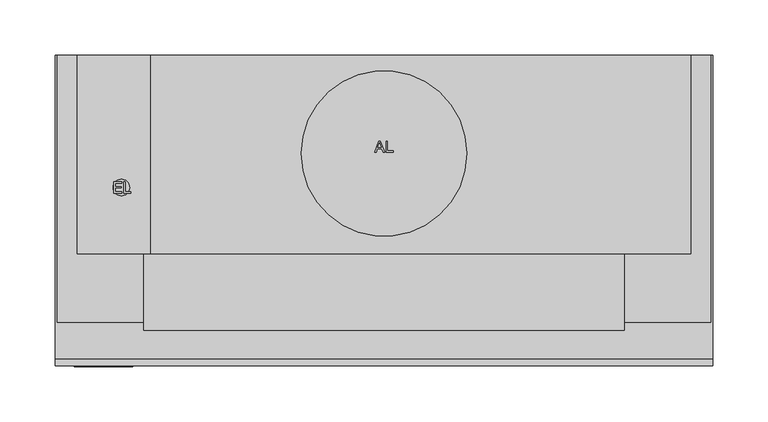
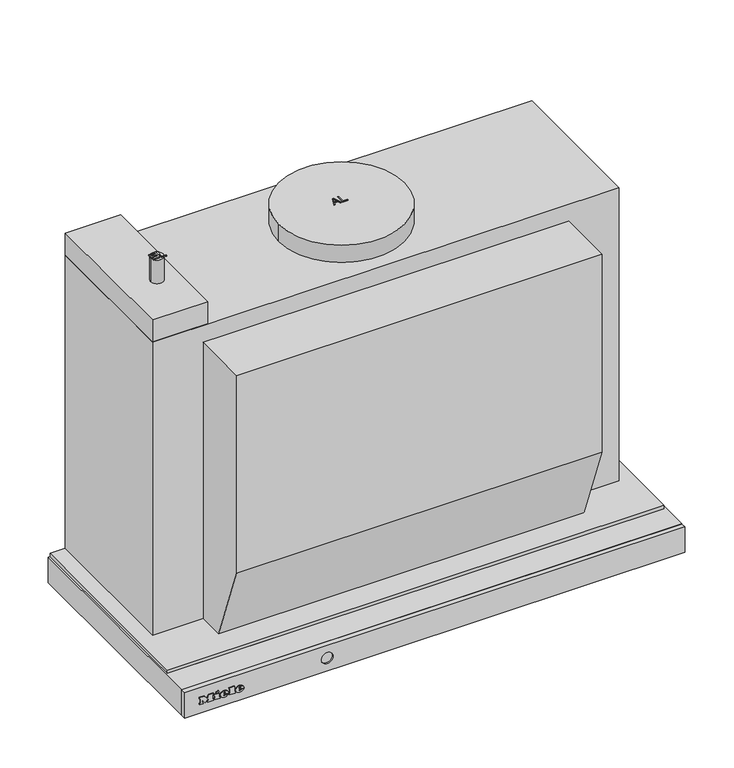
"""IFC4 building model written with IfcOpenShell, lengths in millimetres: proxy geometry, 11878430_PAC_DAS4630_OBSW : 28S4630B_PAC_11878430_DAS4630_OBSW."""

from ifc_helpers import new_model, si_unit, point, frame, frame_2d, origin, origin_with_axes, place, context, project, spatial, polyline, circle_curve, ellipse_curve, trimmed, segment, composite_curve, outline, extrude, faceted_brep, source, transform, mapped, element, save
from ifc_brep_helpers import plane_surface, cylinder_surface, revolved_surface, extruded_surface, advanced_brep


def specialty_equipment_1e5db910(model_context):
    return source(origin(), model_context, "Body", "SolidModel", [
        advanced_brep(
        [(-233.4590019, -282.1878927, -18.7681017), (-233.4590019, -282.1878927, -17.8894017), (-227.6387019, -282.1878927, -17.8894017), (-237.7655019, -282.1878927, -17.8894017), (-235.3730019, -282.1878927, -20.8300017), (-227.7866019, -282.1878927, -18.7681017), (-230.4140019, -282.1878927, -18.7681017), (-232.4846019, -282.1878927, -19.7425017), (-233.4590019, -282.1878927, -16.7758017), (-233.4590019, -282.1878927, -15.8275017), (-231.9713019, -282.1878927, -15.8275017), (-231.9713019, -282.1878927, -16.7758017), (-233.4590019, -281.1878927, -18.7681017), (-232.4846019, -281.1878927, -19.7425017), (-230.4140019, -281.1878927, -18.7681017), (-227.7866019, -281.1878927, -18.7681017), (-235.3730019, -281.1878927, -20.8300017), (-237.7655019, -281.1878927, -17.8894017), (-227.6387019, -281.1878927, -17.8894017), (-233.4590019, -281.1878927, -17.8894017), (-233.4590019, -281.1878927, -16.7758017), (-231.9713019, -281.1878927, -16.7758017), (-231.9713019, -281.1878927, -15.8275017), (-233.4590019, -281.1878927, -15.8275017)],
        [
            (0, 1),
            (1, 2),
            (2, 3, ellipse_curve(frame((-232.7021019, -282.1878927, -17.8894017), z_axis=(0.0, -1.0, 0.0), x_axis=(-1.0, 0.0, 0.0)), 5.0634, 4.1847)),
            (3, 4, circle_curve(frame((-234.3985544, -282.1878927, -17.5936017), z_axis=(0.0, -1.0, 0.0), x_axis=(0.0, 0.0, -1.0)), 3.3799161)),
            (4, 5, circle_curve(frame((-232.8034638, -282.1878927, -15.2968017), z_axis=(0.0, -1.0, 0.0), x_axis=(0.0, 0.0, -1.0)), 6.1007236)),
            (5, 6),
            (6, 7, circle_curve(frame((-232.0593254, -282.1878927, -17.9590017), z_axis=(0.0, 1.0, 0.0), x_axis=(0.0, 0.0, -1.0)), 1.8335027)),
            (7, 0, circle_curve(frame((-232.4846019, -282.1878927, -18.7681017), z_axis=(0.0, 1.0, 0.0), x_axis=(0.0, 0.0, -1.0)), 0.9744)),
            (8, 9),
            (9, 10, circle_curve(frame((-232.7151519, -282.1878927, -15.8275017), z_axis=(0.0, 1.0, 0.0), x_axis=(0.0, 0.0, -1.0)), 0.74385)),
            (10, 11),
            (11, 8),
            (12, 13, circle_curve(frame((-232.4846019, -281.1878927, -18.7681017), z_axis=(0.0, -1.0, 0.0), x_axis=(0.0, 0.0, -1.0)), 0.9744)),
            (13, 14, circle_curve(frame((-232.0593254, -281.1878927, -17.9590017), z_axis=(0.0, -1.0, 0.0), x_axis=(0.0, 0.0, -1.0)), 1.8335027)),
            (14, 15),
            (15, 16, circle_curve(frame((-232.8034638, -281.1878927, -15.2968017), z_axis=(0.0, 1.0, 0.0), x_axis=(0.0, 0.0, -1.0)), 6.1007236)),
            (16, 17, circle_curve(frame((-234.3985544, -281.1878927, -17.5936017), z_axis=(0.0, 1.0, 0.0), x_axis=(0.0, 0.0, -1.0)), 3.3799161)),
            (17, 18, ellipse_curve(frame((-232.7021019, -281.1878927, -17.8894017), z_axis=(0.0, 1.0, 0.0), x_axis=(-1.0, 0.0, 0.0)), 5.0634, 4.1847)),
            (18, 19),
            (19, 12),
            (20, 21),
            (21, 22),
            (22, 23, circle_curve(frame((-232.7151519, -281.1878927, -15.8275017), z_axis=(0.0, -1.0, 0.0), x_axis=(0.0, 0.0, -1.0)), 0.74385)),
            (23, 20),
            (0, 12),
            (19, 1),
            (18, 2),
            (5, 15),
            (14, 6),
            (17, 3),
            (13, 7),
            (16, 4),
            (8, 20),
            (23, 9),
            (22, 10),
            (21, 11),
        ],
        [
            plane_surface(frame((-233.4590019, -282.1878927, -17.8894017), z_axis=(0.0, -1.0, 0.0), x_axis=(0.0, 0.0, 1.0))),
            plane_surface(frame((-233.4590019, -281.1878927, -17.8894017), z_axis=(0.0, 1.0, 0.0), x_axis=(0.0, 0.0, -1.0))),
            plane_surface(frame((-233.4590019, -282.1878927, -18.7681017), z_axis=(1.0, 0.0, 0.0), x_axis=(0.0, 1.0, 0.0))),
            plane_surface(frame((-233.4590019, -282.1878927, -17.8894017), z_axis=(0.0, 0.0, -1.0), x_axis=(0.0, 1.0, 0.0))),
            plane_surface(frame((-227.7866019, -282.1878927, -18.7681017), z_axis=(0.0, 0.0, 1.0), x_axis=(0.0, 1.0, 0.0))),
            extruded_surface(trimmed(ellipse_curve(frame((-232.7021019, -280.1878927, -17.8894017), z_axis=(0.0, -1.0, 0.0), x_axis=(-1.0, 0.0, 0.0)), 5.0634, 4.1847), [point((-227.6387019, -280.1878927, -17.8894017))], [point((-237.7655019, -280.1878927, -17.8894017))], True, "CARTESIAN"), (0.0, -1.0, 0.0), 1.0),
            revolved_surface(polyline([(-232.0593254, -281.1878927, -19.792504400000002), (-232.0593254, -282.1878927, -19.792504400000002)]), (-232.0593254, -281.1878927, -17.9590017), (0.0, 1.0, 0.0)),
            revolved_surface(polyline([(-232.4846019, -281.1878927, -19.7425017), (-232.4846019, -282.1878927, -19.7425017)]), (-232.4846019, -281.1878927, -18.7681017), (0.0, 1.0, 0.0)),
            cylinder_surface(frame((-234.3985544, -281.1878927, -17.5936017), z_axis=(0.0, -1.0, 0.0), x_axis=(0.0, 0.0, -1.0)), 3.3799161),
            cylinder_surface(frame((-232.8034638, -281.1878927, -15.2968017), z_axis=(0.0, -1.0, 0.0), x_axis=(0.0, 0.0, -1.0)), 6.1007236),
            plane_surface(frame((-233.4590019, -282.1878927, -16.7758017), z_axis=(1.0, 0.0, 0.0), x_axis=(0.0, 1.0, 0.0))),
            revolved_surface(polyline([(-232.7151519, -281.1878927, -16.571351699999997), (-232.7151519, -282.1878927, -16.571351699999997)]), (-232.7151519, -281.1878927, -15.8275017), (0.0, 1.0, 0.0)),
            plane_surface(frame((-231.9713019, -282.1878927, -15.8275017), z_axis=(-1.0, 0.0, 0.0), x_axis=(0.0, 1.0, 0.0))),
            plane_surface(frame((-231.9713019, -282.1878927, -16.7758017), z_axis=(0.0, 0.0, 1.0), x_axis=(0.0, 1.0, 0.0))),
        ],
        [
            (0, [[1, 2, 3, 4, 5, 6, 7, 8], [9, 10, 11, 12]]),
            (1, [[13, 14, 15, 16, 17, 18, 19, 20], [21, 22, 23, 24]]),
            (2, [[-1, 25, -20, 26]]),
            (3, [[-2, -26, -19, 27]]),
            (4, [[-6, 28, -15, 29]]),
            (5, [[-3, -27, -18, 30]]),
            (6, [[-7, -29, -14, 31]]),
            (7, [[-8, -31, -13, -25]]),
            (8, [[-4, -30, -17, 32]]),
            (9, [[-5, -32, -16, -28]]),
            (10, [[-9, 33, -24, 34]]),
            (11, [[-10, -34, -23, 35]]),
            (12, [[-11, -35, -22, 36]]),
            (13, [[-12, -36, -21, -33]]),
        ],
    ),
        advanced_brep(
        [(-251.6159019, -282.1878927, -18.7681017), (-251.6159019, -282.1878927, -17.8894017), (-245.7956019, -282.1878927, -17.8894017), (-255.9224019, -282.1878927, -17.8894017), (-253.5299019, -282.1878927, -20.8300017), (-245.9435019, -282.1878927, -18.7681017), (-248.5709019, -282.1878927, -18.7681017), (-250.6415019, -282.1878927, -19.7425017), (-251.6159019, -282.1878927, -16.7758017), (-251.6159019, -282.1878927, -15.8275017), (-250.1282019, -282.1878927, -15.8275017), (-250.1282019, -282.1878927, -16.7758017), (-251.6159019, -281.1878927, -18.7681017), (-250.6415019, -281.1878927, -19.7425017), (-248.5709019, -281.1878927, -18.7681017), (-245.9435019, -281.1878927, -18.7681017), (-253.5299019, -281.1878927, -20.8300017), (-255.9224019, -281.1878927, -17.8894017), (-245.7956019, -281.1878927, -17.8894017), (-251.6159019, -281.1878927, -17.8894017), (-251.6159019, -281.1878927, -16.7758017), (-250.1282019, -281.1878927, -16.7758017), (-250.1282019, -281.1878927, -15.8275017), (-251.6159019, -281.1878927, -15.8275017)],
        [
            (0, 1),
            (1, 2),
            (2, 3, ellipse_curve(frame((-250.8590019, -282.1878927, -17.8894017), z_axis=(0.0, -1.0, 0.0), x_axis=(-1.0, 0.0, 0.0)), 5.0634, 4.1847)),
            (3, 4, circle_curve(frame((-252.5554544, -282.1878927, -17.5936017), z_axis=(0.0, -1.0, 0.0), x_axis=(0.0, 0.0, -1.0)), 3.3799161)),
            (4, 5, circle_curve(frame((-250.9603638, -282.1878927, -15.2968017), z_axis=(0.0, -1.0, 0.0), x_axis=(0.0, 0.0, -1.0)), 6.1007236)),
            (5, 6),
            (6, 7, circle_curve(frame((-250.2162254, -282.1878927, -17.9590017), z_axis=(0.0, 1.0, 0.0), x_axis=(0.0, 0.0, -1.0)), 1.8335027)),
            (7, 0, circle_curve(frame((-250.6415019, -282.1878927, -18.7681017), z_axis=(0.0, 1.0, 0.0), x_axis=(0.0, 0.0, -1.0)), 0.9744)),
            (8, 9),
            (9, 10, circle_curve(frame((-250.8720519, -282.1878927, -15.8275017), z_axis=(0.0, 1.0, 0.0), x_axis=(0.0, 0.0, -1.0)), 0.74385)),
            (10, 11),
            (11, 8),
            (12, 13, circle_curve(frame((-250.6415019, -281.1878927, -18.7681017), z_axis=(0.0, -1.0, 0.0), x_axis=(0.0, 0.0, -1.0)), 0.9744)),
            (13, 14, circle_curve(frame((-250.2162254, -281.1878927, -17.9590017), z_axis=(0.0, -1.0, 0.0), x_axis=(0.0, 0.0, -1.0)), 1.8335027)),
            (14, 15),
            (15, 16, circle_curve(frame((-250.9603638, -281.1878927, -15.2968017), z_axis=(0.0, 1.0, 0.0), x_axis=(0.0, 0.0, -1.0)), 6.1007236)),
            (16, 17, circle_curve(frame((-252.5554544, -281.1878927, -17.5936017), z_axis=(0.0, 1.0, 0.0), x_axis=(0.0, 0.0, -1.0)), 3.3799161)),
            (17, 18, ellipse_curve(frame((-250.8590019, -281.1878927, -17.8894017), z_axis=(0.0, 1.0, 0.0), x_axis=(-1.0, 0.0, 0.0)), 5.0634, 4.1847)),
            (18, 19),
            (19, 12),
            (20, 21),
            (21, 22),
            (22, 23, circle_curve(frame((-250.8720519, -281.1878927, -15.8275017), z_axis=(0.0, -1.0, 0.0), x_axis=(0.0, 0.0, -1.0)), 0.74385)),
            (23, 20),
            (0, 12),
            (19, 1),
            (18, 2),
            (5, 15),
            (14, 6),
            (17, 3),
            (13, 7),
            (16, 4),
            (8, 20),
            (23, 9),
            (22, 10),
            (21, 11),
        ],
        [
            plane_surface(frame((-251.6159019, -282.1878927, -17.8894017), z_axis=(0.0, -1.0, 0.0), x_axis=(0.0, 0.0, 1.0))),
            plane_surface(frame((-251.6159019, -281.1878927, -17.8894017), z_axis=(0.0, 1.0, 0.0), x_axis=(0.0, 0.0, -1.0))),
            plane_surface(frame((-251.6159019, -282.1878927, -18.7681017), z_axis=(1.0, 0.0, 0.0), x_axis=(0.0, 1.0, 0.0))),
            plane_surface(frame((-251.6159019, -282.1878927, -17.8894017), z_axis=(0.0, 0.0, -1.0), x_axis=(0.0, 1.0, 0.0))),
            plane_surface(frame((-245.9435019, -282.1878927, -18.7681017), z_axis=(0.0, 0.0, 1.0), x_axis=(0.0, 1.0, 0.0))),
            extruded_surface(trimmed(ellipse_curve(frame((-250.8590019, -280.1878927, -17.8894017), z_axis=(0.0, -1.0, 0.0), x_axis=(-1.0, 0.0, 0.0)), 5.0634, 4.1847), [point((-245.7956019, -280.1878927, -17.8894017))], [point((-255.9224019, -280.1878927, -17.8894017))], True, "CARTESIAN"), (0.0, -1.0, 0.0), 1.0),
            revolved_surface(polyline([(-250.2162254, -281.1878927, -19.792504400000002), (-250.2162254, -282.1878927, -19.792504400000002)]), (-250.2162254, -281.1878927, -17.9590017), (0.0, 1.0, 0.0)),
            revolved_surface(polyline([(-250.6415019, -281.1878927, -19.7425017), (-250.6415019, -282.1878927, -19.7425017)]), (-250.6415019, -281.1878927, -18.7681017), (0.0, 1.0, 0.0)),
            cylinder_surface(frame((-252.5554544, -281.1878927, -17.5936017), z_axis=(0.0, -1.0, 0.0), x_axis=(0.0, 0.0, -1.0)), 3.3799161),
            cylinder_surface(frame((-250.9603638, -281.1878927, -15.2968017), z_axis=(0.0, -1.0, 0.0), x_axis=(0.0, 0.0, -1.0)), 6.1007236),
            plane_surface(frame((-251.6159019, -282.1878927, -16.7758017), z_axis=(1.0, 0.0, 0.0), x_axis=(0.0, 1.0, 0.0))),
            revolved_surface(polyline([(-250.8720519, -281.1878927, -16.571351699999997), (-250.8720519, -282.1878927, -16.571351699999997)]), (-250.8720519, -281.1878927, -15.8275017), (0.0, 1.0, 0.0)),
            plane_surface(frame((-250.1282019, -282.1878927, -15.8275017), z_axis=(-1.0, 0.0, 0.0), x_axis=(0.0, 1.0, 0.0))),
            plane_surface(frame((-250.1282019, -282.1878927, -16.7758017), z_axis=(0.0, 0.0, 1.0), x_axis=(0.0, 1.0, 0.0))),
        ],
        [
            (0, [[1, 2, 3, 4, 5, 6, 7, 8], [9, 10, 11, 12]]),
            (1, [[13, 14, 15, 16, 17, 18, 19, 20], [21, 22, 23, 24]]),
            (2, [[-1, 25, -20, 26]]),
            (3, [[-2, -26, -19, 27]]),
            (4, [[-6, 28, -15, 29]]),
            (5, [[-3, -27, -18, 30]]),
            (6, [[-7, -29, -14, 31]]),
            (7, [[-8, -31, -13, -25]]),
            (8, [[-4, -30, -17, 32]]),
            (9, [[-5, -32, -16, -28]]),
            (10, [[-9, 33, -24, 34]]),
            (11, [[-10, -34, -23, 35]]),
            (12, [[-11, -35, -22, 36]]),
            (13, [[-12, -36, -21, -33]]),
        ],
    ),
        extrude(outline(polyline([(-12.6433017, -261.1250019), (-14.0527017, -260.4638019), (-12.6781017, -257.5145019), (-11.2687017, -258.1670019), (-12.6433017, -261.1250019)])), frame((0.0, -282.1878927, 0.0), z_axis=(0.0, 1.0, 0.0), x_axis=(0.0, 0.0, 1.0)), (0.0, 0.0, 1.0), 1.0),
        extrude(outline(polyline([(-14.2441017, -263.2739019), (-15.8014017, -263.2739019), (-15.8014017, -262.2386019), (-19.3684017, -262.2386019), (-19.3684017, -263.2739019), (-20.8300017, -263.2739019), (-20.8300017, -256.4096019), (-19.3684017, -256.4096019), (-19.3684017, -257.4188019), (-14.2441017, -257.4188019), (-14.2441017, -263.2739019)])), frame((0.0, -282.1878927, 0.0), z_axis=(0.0, 1.0, 0.0), x_axis=(0.0, 0.0, 1.0)), (0.0, 0.0, 1.0), 1.0),
        extrude(outline(polyline([(-13.5481017, -245.3084019), (-13.5481017, -244.2644019), (-19.3684017, -244.2644019), (-19.3684017, -245.3084019), (-20.8300017, -245.3084019), (-20.8300017, -238.2527019), (-19.3684017, -238.2527019), (-19.3684017, -239.3228019), (-12.1300017, -239.3228019), (-12.1300017, -245.3084019), (-13.5481017, -245.3084019)])), frame((0.0, -282.1878927, 0.0), z_axis=(0.0, 1.0, 0.0), x_axis=(0.0, 0.0, 1.0)), (0.0, 0.0, 1.0), 1.0),
        extrude(outline(polyline([(-13.5481017, -280.6130019), (-13.5481017, -279.5603019), (-19.3684017, -279.5603019), (-19.3684017, -280.6130019), (-20.8300017, -280.6130019), (-20.8300017, -276.7850019), (-19.3684017, -276.7850019), (-19.3684017, -277.8290019), (-15.6719769, -277.8290019), (-20.8300017, -273.9401019), (-15.5772794, -270.0338019), (-19.3684017, -270.0338019), (-19.3684017, -271.1039019), (-20.8300017, -271.1039019), (-20.8300017, -264.1613019), (-19.3684017, -264.1613019), (-19.3684017, -265.2662019), (-13.5481017, -265.2662019), (-13.5481017, -264.1613019), (-12.1300017, -264.1613019), (-12.1300017, -269.4596019), (-15.3925017, -272.0000019), (-12.1300017, -274.5491019), (-12.1300017, -280.6130019), (-13.5481017, -280.6130019)])), frame((0.0, -282.1878927, 0.0), z_axis=(0.0, 1.0, 0.0), x_axis=(0.0, 0.0, 1.0)), (0.0, 0.0, 1.0), 1.0),
        advanced_brep(
        [(-298.0, -281.1878927, 0.0), (-298.0, -281.1878927, -32.0), (298.0, -281.1878927, -32.0), (298.0, -281.1878927, 0.0), (-120.989338, -281.1878927, -16.0), (-135.010662, -281.1878927, -16.0), (-298.0, -275.4770358, 0.0), (298.0, -275.4770358, 0.0), (298.0, -275.4770358, -32.0), (-298.0, -275.4770358, -32.0), (-135.010662, -279.3472208, -16.0), (-120.989338, -279.3472208, -16.0)],
        [
            (0, 1),
            (1, 2),
            (2, 3),
            (3, 0),
            (4, 5, circle_curve(frame((-128.0, -281.1878927, -16.0), z_axis=(0.0, 1.0, 0.0), x_axis=(1.0, 0.0, 0.0)), 7.010662)),
            (5, 4, circle_curve(frame((-128.0, -281.1878927, -16.0), z_axis=(0.0, 1.0, 0.0), x_axis=(1.0, 0.0, 0.0)), 7.010662)),
            (6, 7),
            (7, 8),
            (8, 9),
            (9, 6),
            (3, 7),
            (6, 0),
            (2, 8),
            (1, 9),
            (10, 11, circle_curve(frame((-128.0, -279.3472208, -16.0), z_axis=(0.0, -1.0, 0.0), x_axis=(1.0, 0.0, 0.0)), 7.010662)),
            (11, 10, circle_curve(frame((-128.0, -279.3472208, -16.0), z_axis=(0.0, -1.0, 0.0), x_axis=(1.0, 0.0, 0.0)), 7.010662)),
            (10, 5),
            (4, 11),
        ],
        [
            plane_surface(frame((-298.0, -281.1878927, 0.0), z_axis=(0.0, -1.0, 0.0), x_axis=(0.0, 0.0, -1.0))),
            plane_surface(frame((-298.0, -275.4770358, 0.0), z_axis=(0.0, 1.0, 0.0), x_axis=(0.0, 0.0, 1.0))),
            plane_surface(frame((298.0, -281.1878927, 0.0), z_axis=(0.0, 0.0, 1.0), x_axis=(0.0, 1.0, 0.0))),
            plane_surface(frame((298.0, -281.1878927, -32.0), z_axis=(1.0, 0.0, 0.0), x_axis=(0.0, 1.0, 0.0))),
            plane_surface(frame((-298.0, -281.1878927, -32.0), z_axis=(0.0, 0.0, -1.0), x_axis=(0.0, 1.0, 0.0))),
            plane_surface(frame((-298.0, -281.1878927, 0.0), z_axis=(-1.0, 0.0, 0.0), x_axis=(0.0, 1.0, 0.0))),
            plane_surface(frame((-120.989338, -279.3472208, -16.0), z_axis=(0.0, -1.0, 0.0), x_axis=(0.0, 0.0, -1.0))),
            revolved_surface(polyline([(-120.989338, -281.1878927, -16.0), (-120.989338, -279.3472208, -16.0)]), (-128.0, -279.3472208, -16.0), (0.0, -1.0, 0.0)),
        ],
        [
            (0, [[1, 2, 3, 4], [5, 6]]),
            (1, [[7, 8, 9, 10]]),
            (2, [[-4, 11, -7, 12]]),
            (3, [[-3, 13, -8, -11]]),
            (4, [[-2, 14, -9, -13]]),
            (5, [[-1, -12, -10, -14]]),
            (6, [[15, 16]]),
            (7, [[-15, 17, -5, 18]]),
            (7, [[-16, -18, -6, -17]]),
        ],
    ),
        extrude(outline(polyline([(278.0, -180.0), (-278.0, -180.0), (-278.0, 0.0), (278.0, 0.0), (278.0, -180.0)])), frame((0.0, 0.0, 4.0), z_axis=(0.0, 0.0, 1.0), x_axis=(1.0, 0.0, 0.0)), (0.0, 0.0, 1.0), 369.0),
        extrude(outline(composite_curve([segment(trimmed(circle_curve(frame_2d((0.0, -89.0)), 75.0), [point((-75.0, -89.0))], [point((75.0, -89.0))], False, "CARTESIAN"), True, "CONTINUOUS"), segment(trimmed(circle_curve(frame_2d((0.0, -89.0)), 75.0), [point((75.0, -89.0))], [point((-75.0, -89.0))], False, "CARTESIAN"), True, "CONTINUOUS")], self_intersect=False)), frame((0.0, 0.0, 373.0), z_axis=(0.0, 0.0, 1.0), x_axis=(1.0, 0.0, 0.0)), (0.0, 0.0, 1.0), 22.0),
        extrude(outline(polyline([(-278.0, -180.0), (-278.0, 0.0), (-212.0, 0.0), (-212.0, -180.0), (-278.0, -180.0)])), frame((0.0, 0.0, 373.0), z_axis=(0.0, 0.0, 1.0), x_axis=(1.0, 0.0, 0.0)), (0.0, 0.0, 1.0), 28.0),
        extrude(outline(polyline([(-180.0, 352.0), (-180.0, 4.0), (-211.7966838, 4.0), (-249.5, 103.2192532), (-249.5, 352.0), (-180.0, 352.0)])), frame((-217.7156244, 0.0, 0.0), z_axis=(1.0, 0.0, 0.0), x_axis=(0.0, 1.0, 0.0)), (0.0, 0.0, 1.0), 435.4312488),
        extrude(outline(polyline([(-8.5446725, -87.975609), (-4.5347587, -77.929978), (-3.4654484, -77.929978), (0.5420128, -87.975609), (-0.7848149, -87.975609), (-1.9326067, -84.8363493), (-6.0725055, -84.8363493), (-7.2202973, -87.975609), (-8.5446725, -87.975609)]), holes=[polyline([(-5.6114267, -83.5806455), (-2.391233, -83.5806455), (-3.2986752, -81.110931), (-4.0025561, -79.1856819), (-4.6279555, -80.8951069), (-5.6114267, -83.5806455)])]), frame((0.0, 0.0, 395.0), z_axis=(0.0, 0.0, 1.0), x_axis=(1.0, 0.0, 0.0)), (0.0, 0.0, 1.0), 1.0),
        extrude(outline(polyline([(1.8835558, -87.975609), (1.8835558, -77.929978), (3.1392597, -77.929978), (3.1392597, -86.7199052), (8.1620752, -86.7199052), (8.1620752, -87.975609), (1.8835558, -87.975609)])), frame((0.0, 0.0, 395.0), z_axis=(0.0, 0.0, 1.0), x_axis=(1.0, 0.0, 0.0)), (0.0, 0.0, 1.0), 1.0),
        extrude(outline(polyline([(296.0, 0.0), (296.0, -242.0), (-296.0, -242.0), (-296.0, 0.0), (296.0, 0.0)])), origin_with_axes(), (0.0, 0.0, 1.0), 4.0),
        extrude(outline(polyline([(120.0, -19.25), (120.0, -31.75), (-120.0, -31.75), (-120.0, -19.25), (120.0, -19.25)])), frame((0.0, 0.0, -23.0), z_axis=(0.0, 0.0, 1.0), x_axis=(1.0, 0.0, 0.0)), (0.0, 0.0, 1.0), 1.785426),
        extrude(outline(polyline([(181.0813184, -268.0), (181.0813184, -246.0), (249.0, -246.0), (249.0, -268.0), (181.0813184, -268.0)])), frame((0.0, 0.0, -33.3019181), z_axis=(0.0, 0.0, 1.0), x_axis=(1.0, 0.0, 0.0)), (0.0, 0.0, 1.0), 1.3019181),
        extrude(outline(polyline([(-249.0, -268.0), (-249.0, -246.0), (-181.0, -246.0), (-181.0, -268.0), (-249.0, -268.0)])), frame((0.0, 0.0, -33.3019181), z_axis=(0.0, 0.0, 1.0), x_axis=(1.0, 0.0, 0.0)), (0.0, 0.0, 1.0), 1.3019181),
        extrude(outline(composite_curve([segment(trimmed(circle_curve(frame_2d((-238.0, -120.0)), 7.5), [point((-230.5, -120.0))], [point((-245.5, -120.0))], False, "CARTESIAN"), True, "CONTINUOUS"), segment(trimmed(circle_curve(frame_2d((-238.0, -120.0)), 7.5), [point((-245.5, -120.0))], [point((-230.5, -120.0))], False, "CARTESIAN"), True, "CONTINUOUS")], self_intersect=False)), frame((0.0, 0.0, 401.0), z_axis=(0.0, 0.0, 1.0), x_axis=(1.0, 0.0, 0.0)), (0.0, 0.0, 1.0), 30.0),
        extrude(outline(polyline([(-235.640443, -124.9184735), (-235.640443, -114.8728425), (-234.3847391, -114.8728425), (-234.3847391, -123.6627696), (-229.3619236, -123.6627696), (-229.3619236, -124.9184735), (-235.640443, -124.9184735)])), frame((0.0, 0.0, 431.0), z_axis=(0.0, 0.0, 1.0), x_axis=(1.0, 0.0, 0.0)), (0.0, 0.0, 1.0), 1.0),
        extrude(outline(polyline([(-244.9012591, -124.9184735), (-244.9012591, -114.8728425), (-237.6809618, -114.8728425), (-237.6809618, -116.1285464), (-243.6455552, -116.1285464), (-243.6455552, -119.1108431), (-237.9948878, -119.1108431), (-237.9948878, -120.366547), (-243.6455552, -120.366547), (-243.6455552, -123.6627696), (-237.5239988, -123.6627696), (-237.5239988, -124.9184735), (-244.9012591, -124.9184735)])), frame((0.0, 0.0, 431.0), z_axis=(0.0, 0.0, 1.0), x_axis=(1.0, 0.0, 0.0)), (0.0, 0.0, 1.0), 1.0),
        extrude(outline(polyline([(-298.0, 0.0), (-263.0, 0.0), (-263.0, -242.0), (263.0, -242.0), (263.0, 0.0), (298.0, 0.0), (298.0, -275.0), (-298.0, -275.0), (-298.0, 0.0)])), frame((0.0, 0.0, -32.0), z_axis=(0.0, 0.0, 1.0), x_axis=(1.0, 0.0, 0.0)), (0.0, 0.0, 1.0), 32.0),
        faceted_brep([(-126.0, -39.0, -24.0), (-126.0, -39.0, 0.0), (126.0, -39.0, 0.0), (126.0, -39.0, -24.0), (-126.0, -12.0, -24.0), (-126.0, -12.0, 0.0), (126.0, -12.0, -24.0), (126.0, -12.0, 0.0), (-263.0, -242.0, 0.0), (-263.0, 0.0, 0.0), (-263.0, 0.0, -24.0), (-263.0, -52.0, -24.0), (-263.0, -52.0, -25.0), (-263.0, -242.0, -25.0), (263.0, -52.0, -25.0), (263.0, -242.0, -25.0), (263.0, -52.0, -24.0), (263.0, 0.0, -24.0), (263.0, 0.0, 0.0), (263.0, -242.0, 0.0)], [[[0, 1, 2, 3]], [[4, 5, 1, 0]], [[6, 7, 5, 4]], [[8, 9, 10, 11, 12, 13]], [[13, 12, 14, 15]], [[16, 11, 10, 17], [6, 4, 0, 3]], [[11, 16, 14, 12]], [[18, 9, 8, 19], [5, 7, 2, 1]], [[9, 18, 17, 10]], [[19, 8, 13, 15]], [[18, 19, 15, 14, 16, 17]], [[7, 6, 3, 2]]]),
        extrude(outline(polyline([(126.0, -12.0), (126.0, -39.0), (-126.0, -39.0), (-126.0, -12.0), (126.0, -12.0)]), holes=[polyline([(120.0, -19.25), (-120.0, -19.25), (-120.0, -31.75), (120.0, -31.75), (120.0, -19.25)])]), frame((0.0, 0.0, -21.214574), z_axis=(0.0, 0.0, 1.0), x_axis=(1.0, 0.0, 0.0)), (0.0, 0.0, 1.0), 21.214574),
    ])


if __name__ == "__main__":
    model = new_model("IFC4")
    model_context = context("Model", 3, world=origin())
    ifc_project = project(units=[si_unit("LENGTHUNIT", "METRE", prefix="MILLI")], contexts=[model_context])
    site = spatial("IfcSite", under=ifc_project)
    building = spatial("IfcBuilding", under=site)
    placement = place(None, origin())
    specialty_equipment_shape = specialty_equipment_1e5db910(model_context)
    element("IfcBuildingElementProxy", 1, Name="11878430_PAC_DAS4630_OBSW : 28S4630B_PAC_11878430_DAS4630_OBSW", ObjectType="11878430_PAC_DAS4630_OBSW : 28S4630B_PAC_11878430_DAS4630_OBSW", at=placement, inside=building, context=model_context, shape_type="MappedRepresentation", body=[
        mapped(specialty_equipment_shape, transform((0.0, 0.0, 0.0), x_axis=(1.0, 0.0, 0.0), y_axis=(0.0, 1.0, 0.0), z_axis=(0.0, 0.0, 1.0))),
    ])
    save(model, "model.ifc")
